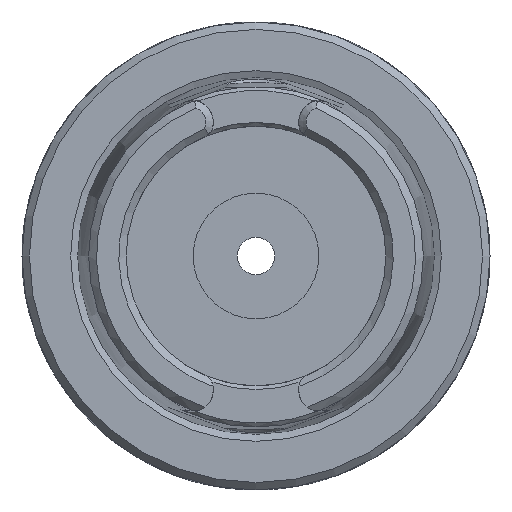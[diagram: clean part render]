
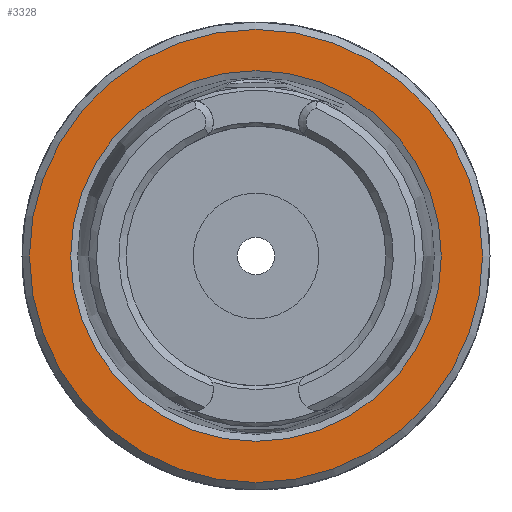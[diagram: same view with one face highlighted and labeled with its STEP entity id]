
A CAD part, left-side view. The second image highlights one B-rep face of the part: STEP entity #3328.
In plain terms, the highlighted planar face has unit normal (-1, 0, 0).
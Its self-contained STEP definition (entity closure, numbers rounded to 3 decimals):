
#85=FACE_BOUND('',#835,.T.);
#453=CIRCLE('',#3622,30.5);
#454=CIRCLE('',#3624,24.95);
#638=FACE_OUTER_BOUND('',#834,.T.);
#834=EDGE_LOOP('',(#2974));
#835=EDGE_LOOP('',(#2975));
#1514=VERTEX_POINT('',#7807);
#1515=VERTEX_POINT('',#7811);
#2006=EDGE_CURVE('',#1514,#1514,#453,.T.);
#2007=EDGE_CURVE('',#1515,#1515,#454,.T.);
#2974=ORIENTED_EDGE('',*,*,#2006,.F.);
#2975=ORIENTED_EDGE('',*,*,#2007,.T.);
#3115=PLANE('',#3623);
#3328=ADVANCED_FACE('',(#638,#85),#3115,.T.);
#3622=AXIS2_PLACEMENT_3D('',#7809,#4249,#4250);
#3623=AXIS2_PLACEMENT_3D('',#7810,#4251,#4252);
#3624=AXIS2_PLACEMENT_3D('',#7812,#4253,#4254);
#4249=DIRECTION('center_axis',(1.,0.,0.));
#4250=DIRECTION('ref_axis',(0.,-1.,0.));
#4251=DIRECTION('center_axis',(-1.,0.,0.));
#4252=DIRECTION('ref_axis',(0.,0.,1.));
#4253=DIRECTION('center_axis',(1.,0.,0.));
#4254=DIRECTION('ref_axis',(0.,0.,-1.));
#7807=CARTESIAN_POINT('',(-19.,30.5,0.));
#7809=CARTESIAN_POINT('Origin',(-19.,0.,0.));
#7810=CARTESIAN_POINT('Origin',(-19.,31.5,0.));
#7811=CARTESIAN_POINT('',(-19.,-24.95,0.));
#7812=CARTESIAN_POINT('Origin',(-19.,0.,0.));
